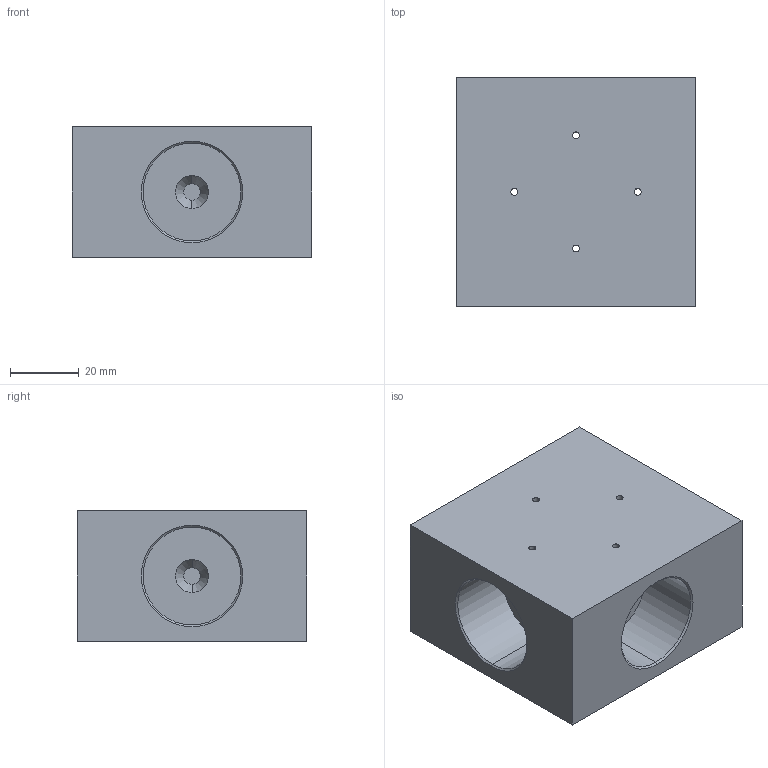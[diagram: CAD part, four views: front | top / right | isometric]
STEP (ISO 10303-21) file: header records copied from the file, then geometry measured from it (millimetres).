
FILE_DESCRIPTION (( 'STEP AP203' ), '1' );
FILE_NAME ('FT60CS09.STEP', '2026-06-26T00:50:34', ( 'USER' ), ( '' ), 'SwSTEP 2.0', 'SolidWorks 2023', '' );
FILE_SCHEMA (( 'CONFIG_CONTROL_DESIGN' ));
Length unit declared in the file: millimetre
Products named in the file (1): FT60CS09
Bounding box: 70 x 67 x 38 mm (x, y, z)
Volume: 128155.9 mm3; surface area: 27269.7 mm2
Topology: 1 solids, 1 shells, 62 faces, 156 edges, 96 vertices
Faces by surface type: cylinder 32, cone 16, plane 14
Entity records: 2177 total; most frequent: CARTESIAN_POINT 579, DIRECTION 322, ORIENTED_EDGE 312, EDGE_CURVE 156, AXIS2_PLACEMENT_3D 127, VERTEX_POINT 96, EDGE_LOOP 78, LINE 68
